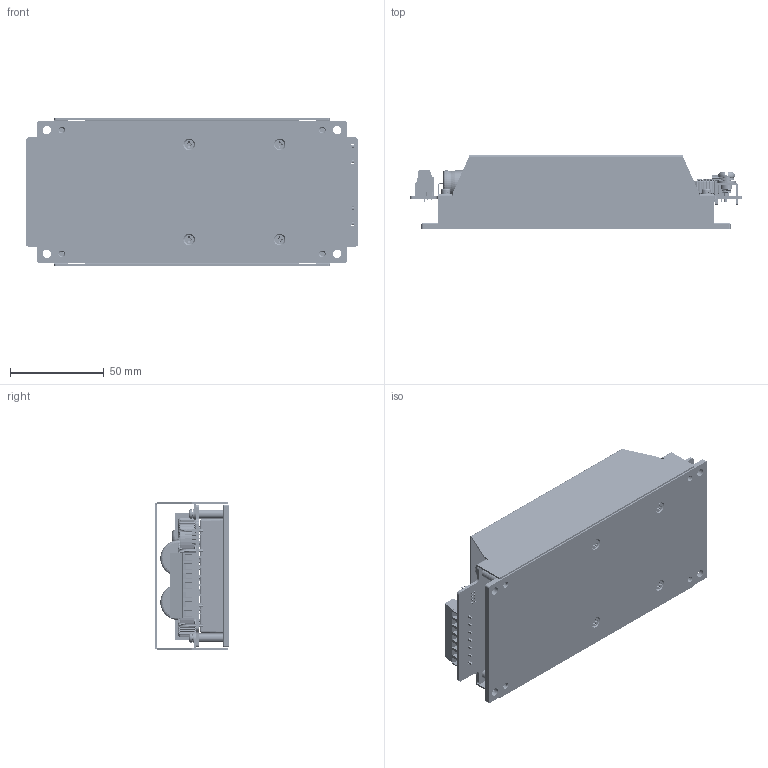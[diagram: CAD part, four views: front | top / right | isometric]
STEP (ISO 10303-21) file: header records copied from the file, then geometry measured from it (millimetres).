
FILE_DESCRIPTION (( 'STEP AP203' ), '1' );
FILE_NAME ('CHB200W12-72S CMFD¦¨«~¹Ï2024.04.30.STEP', '2024-04-30T05:45:51', ( '' ), ( '' ), 'SwSTEP 2.0', 'SolidWorks 2020', '' );
FILE_SCHEMA (( 'CONFIG_CONTROL_DESIGN' ));
Products named in the file (1): CHB200W12-72S CMFD成品圖2024.04.30
Bounding box: 177.16 x 39.5 x 78.56 mm (x, y, z)
Volume: 157534.1 mm3; surface area: 136878 mm2
Topology: 28 solids, 38 shells, 3683 faces, 9581 edges, 6062 vertices
Faces by surface type: plane 1605, cylinder 1072, torus 773, bspline 130, cone 96, sphere 7
Full cylindrical faces by diameter (mm): 0.6 x12, 0.7 x2, 0.8 x78, 1 x10, 1.2 x14, 1.4 x7, 2 x12, 2.2 x12, 3.2 x12, 3.25 x1, 3.5 x4, 3.8 x9, 3.9 x4, 4 x7, 4.3 x8, 4.45 x4, 4.5 x4, 4.6 x4, 4.7 x12, 5 x10, 6 x2, 8 x3, 8.8 x2, 9.8 x2, 12 x4, 12.6 x2, 14 x2, 18 x2
Entity records: 165619 total; most frequent: CARTESIAN_POINT 81460, ORIENTED_EDGE 17910, DIRECTION 16175, EDGE_CURVE 8955, AXIS2_PLACEMENT_3D 6036, VERTEX_POINT 5891, EDGE_LOOP 4500, LINE 4103
